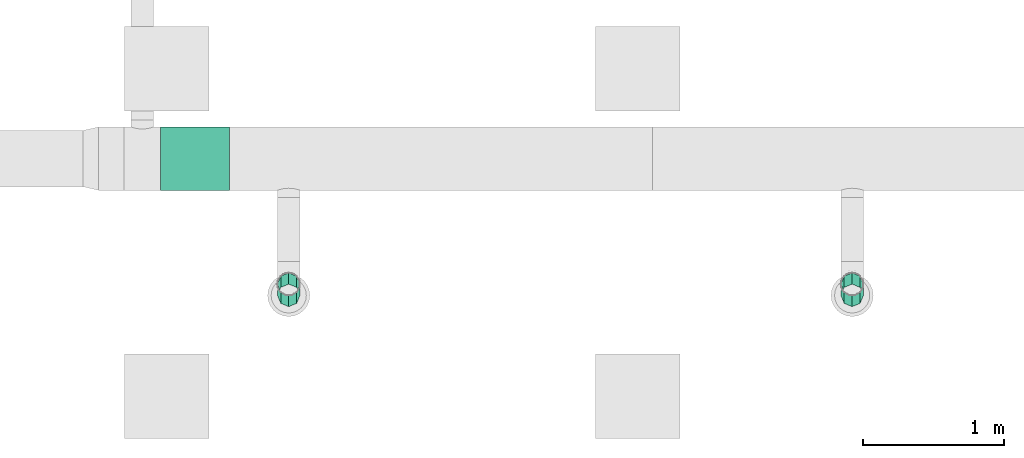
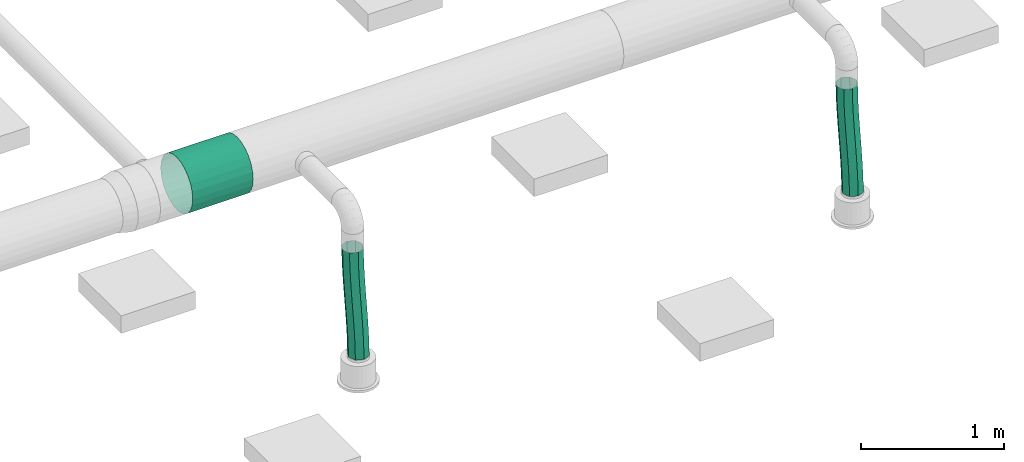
# One storey, part 247 of 374: 3 flow segments.
"""IFC2X3 building model written with IfcOpenShell, lengths in metres."""

import ifcopenshell
import ifcopenshell.guid

model = None  # the IFC model being written
_history = None  # IfcOwnerHistory: only IFC2X3 demands one
_inside = {}  # id of a spatial element -> (the spatial element, [elements in it])
_under = {}  # id of a project, library or spatial element -> (it, [spatial elements below it])
_declared = {}  # id of a project -> (the project, [libraries it declares])
_typed = {}  # id of a type object -> (the type object, [elements of that type])
_made_of = {}  # id of a material, layer set ... -> (it, [elements and type objects made of it])


def new_model(schema):
    """Start an empty IFC model of exactly this schema.

    Asked for "IFC4X3", IfcOpenShell would pick the latest addendum, in which some entities
    have other attributes; the version numbers below select the first issue.
    IFC2X3 requires an IfcOwnerHistory on every rooted entity: one is made here for all.
    """
    global model, _history
    if schema == "IFC4X3":
        model = ifcopenshell.file(schema_version=(4, 3, 0, 0))
    else:
        model = ifcopenshell.file(schema=schema)
    _inside.clear()
    _under.clear()
    _declared.clear()
    _typed.clear()
    _made_of.clear()
    _history = None
    if model.schema == "IFC2X3":
        org = make("IfcOrganization", Name="unknown")
        user = make(
            "IfcPersonAndOrganization",
            ThePerson=make("IfcPerson", FamilyName="unknown"),
            TheOrganization=org,
        )
        app = make(
            "IfcApplication",
            ApplicationDeveloper=org,
            Version="unknown",
            ApplicationFullName="unknown",
            ApplicationIdentifier="unknown",
        )
        _history = make(
            "IfcOwnerHistory",
            OwningUser=user,
            OwningApplication=app,
            ChangeAction="ADDED",
            CreationDate=0,
        )
    return model


def make(cls, **values):
    """One entity of the class cls with the attributes given. An attribute that is None is left unset."""
    return model.create_entity(
        cls, **{name: value for name, value in values.items() if value is not None}
    )


def rooted(cls, **values):
    """An entity with a GlobalId (a new one), such as an element, a storey or a relation."""
    return make(cls, GlobalId=ifcopenshell.guid.new(), OwnerHistory=_history, **values)


def si_unit(unit_type, name, prefix=None):
    """IfcSIUnit, for example si_unit("LENGTHUNIT", "METRE", prefix="MILLI")."""
    return make("IfcSIUnit", UnitType=unit_type, Prefix=prefix, Name=name)


def assignment(units):
    """IfcUnitAssignment: the units of a project."""
    return None if units is None else make("IfcUnitAssignment", Units=units)


def point(xyz):
    """IfcCartesianPoint."""
    return None if xyz is None else make("IfcCartesianPoint", Coordinates=xyz)


def direction(xyz):
    """IfcDirection."""
    return None if xyz is None else make("IfcDirection", DirectionRatios=xyz)


def frame(location, z_axis=None, x_axis=None):
    """IfcAxis2Placement3D, a coordinate frame: its origin and axes. An axis left out is left unset."""
    return make(
        "IfcAxis2Placement3D",
        Location=point(location),
        Axis=direction(z_axis),
        RefDirection=direction(x_axis),
    )


def origin():
    """The frame at (0, 0, 0) with its axes left unset."""
    return frame((0.0, 0.0, 0.0))


def place(relative_to, where):
    """IfcLocalPlacement: puts the frame where relative to a parent placement (None: the world)."""
    return make(
        "IfcLocalPlacement", PlacementRelTo=relative_to, RelativePlacement=where
    )


def context(
    kind, dimensions, precision=None, world=None, true_north=None, identifier=None
):
    """IfcGeometricRepresentationContext, for example the 3D "Model" context."""
    return make(
        "IfcGeometricRepresentationContext",
        ContextIdentifier=identifier,
        ContextType=kind,
        CoordinateSpaceDimension=dimensions,
        Precision=precision,
        WorldCoordinateSystem=world,
        TrueNorth=true_north,
    )


def subcontext(parent, identifier, kind, view, scale=None):
    """IfcGeometricRepresentationSubContext, for example "Body" below "Model"."""
    return make(
        "IfcGeometricRepresentationSubContext",
        ContextIdentifier=identifier,
        ContextType=kind,
        ParentContext=parent,
        TargetScale=scale,
        TargetView=view,
    )


def project(units=None, contexts=None):
    """IfcProject with its units and contexts."""
    return rooted(
        "IfcProject",
        Name="project",
        RepresentationContexts=contexts,
        UnitsInContext=assignment(units),
    )


def spatial(cls, under=None, at=None, **own):
    """A site, building, storey or space (cls), placed at a placement, below another one or the project."""
    s = rooted(cls, ObjectPlacement=at, **own)
    if under is not None:
        _under.setdefault(under.id(), (under, []))[1].append(s)
    return s


def faces_of(points, faces, orient=None, outer=None):
    """IfcFace entities. A face is a list of loops; a loop is a list of indices into points, from 0.

    orient and outer hold one flag for each loop. By default every Orientation is true, the
    first loop of a face is its IfcFaceOuterBound and the others are IfcFaceBound.
    """
    made = []
    for i, loops in enumerate(faces):
        bounds = []
        for j, loop in enumerate(loops):
            is_outer = j == 0 if outer is None else outer[i][j]
            bounds.append(
                make(
                    "IfcFaceOuterBound" if is_outer else "IfcFaceBound",
                    Bound=make("IfcPolyLoop", Polygon=[points[k] for k in loop]),
                    Orientation=True if orient is None else orient[i][j],
                )
            )
        made.append(make("IfcFace", Bounds=bounds))
    return made


def open_shell(faces, orient=None, outer=None):
    """The faces of one IfcOpenShell. surface_model builds it on its shared points."""
    return ("IfcOpenShell", faces, orient, outer)


def surface_model(cls, points, shells):
    """IfcFaceBasedSurfaceModel or IfcShellBasedSurfaceModel (cls): surfaces that need not close."""
    shared = [point(p) for p in points]
    made = [make(c, CfsFaces=faces_of(shared, fs, o, b)) for c, fs, o, b in shells]
    if cls == "IfcFaceBasedSurfaceModel":
        return make(cls, FbsmFaces=made)
    return make(cls, SbsmBoundary=made)


def shape(context_of_items, identifier, shape_type, items):
    """IfcShapeRepresentation: the items that make up one representation, for example the "Body"."""
    return make(
        "IfcShapeRepresentation",
        ContextOfItems=context_of_items,
        RepresentationIdentifier=identifier,
        RepresentationType=shape_type,
        Items=items,
    )


def source(mapping_origin, context_of_items, identifier, shape_type, items):
    """IfcRepresentationMap: a shape defined once, which mapped items show again and again."""
    return make(
        "IfcRepresentationMap",
        MappingOrigin=mapping_origin,
        MappedRepresentation=shape(context_of_items, identifier, shape_type, items),
    )


def transform(
    local_origin,
    x_axis=None,
    y_axis=None,
    z_axis=None,
    scale=None,
    scale2=None,
    scale3=None,
    uniform=True,
):
    """IfcCartesianTransformationOperator3D, or its non-uniform kind. x_axis, y_axis, z_axis: its Axis1, 2, 3."""
    if uniform:
        return make(
            "IfcCartesianTransformationOperator3D",
            Axis1=direction(x_axis),
            Axis2=direction(y_axis),
            LocalOrigin=point(local_origin),
            Scale=scale,
            Axis3=direction(z_axis),
        )
    return make(
        "IfcCartesianTransformationOperator3DnonUniform",
        Axis1=direction(x_axis),
        Axis2=direction(y_axis),
        LocalOrigin=point(local_origin),
        Scale=scale,
        Axis3=direction(z_axis),
        Scale2=scale2,
        Scale3=scale3,
    )


def mapped(mapping_source, mapping_target):
    """IfcMappedItem: shows the shape of a source again, moved by a transform."""
    return make(
        "IfcMappedItem", MappingSource=mapping_source, MappingTarget=mapping_target
    )


def made_of(thing, what):
    """Note that an element or type object is made of a material, layer set ...; save() writes the relation."""
    if what is not None:
        _made_of.setdefault(what.id(), (what, []))[1].append(thing)
    return thing


def element(
    cls,
    number,
    at=None,
    inside=None,
    cuts=None,
    type_object=None,
    material=None,
    context=None,
    identifier="Body",
    shape_type=None,
    held_by="IfcProductDefinitionShape",
    body=None,
    shapes=None,
    **own,
):
    """One element of the class cls, such as IfcWall. Its Tag is "e" and its number.

    at: its placement. inside: the storey or other place that contains it. cuts: it is an
    opening in that element (IfcRelVoidsElement). A single representation is given by context,
    identifier, shape_type and body (its items); several are given by shapes. held_by: the class
    of the entity that holds the representations. save() writes the other relations.
    """
    e = rooted(cls, Tag="e%d" % number, ObjectPlacement=at, **own)
    if body is not None:
        shapes = [shape(context, identifier, shape_type, body)]
    if shapes is not None:
        e.Representation = make(held_by, Representations=shapes)
    if inside is not None:
        _inside.setdefault(inside.id(), (inside, []))[1].append(e)
    if cuts is not None:
        rooted(
            "IfcRelVoidsElement", RelatingBuildingElement=cuts, RelatedOpeningElement=e
        )
    if type_object is not None:
        _typed.setdefault(type_object.id(), (type_object, []))[1].append(e)
    return made_of(e, material)


def aggregate(whole, parts):
    """IfcRelAggregates: a whole, such as a stair, and the parts it consists of."""
    return rooted("IfcRelAggregates", RelatingObject=whole, RelatedObjects=parts)


def save(model, path):
    """Write the relations noted so far, then the file.

    IfcRelAggregates (storeys below a building ...), IfcRelContainedInSpatialStructure (elements
    in a storey), IfcRelDefinesByType, IfcRelAssociatesMaterial and IfcRelDeclares: one each for
    every whole, place, type object, material and project.
    """
    for whole, parts in _under.values():
        aggregate(whole, parts)
    for where, things in _inside.values():
        rooted(
            "IfcRelContainedInSpatialStructure",
            RelatedElements=things,
            RelatingStructure=where,
        )
    for kind, things in _typed.values():
        rooted("IfcRelDefinesByType", RelatedObjects=things, RelatingType=kind)
    for what, things in _made_of.values():
        rooted("IfcRelAssociatesMaterial", RelatedObjects=things, RelatingMaterial=what)
    for by, libraries in _declared.values():
        rooted("IfcRelDeclares", RelatingContext=by, RelatedDefinitions=libraries)
    model.write(path)


model = new_model("IFC2X3")

# Units and contexts
model_context = context("Model", 3, precision=1e-05, world=origin(), true_north=direction((-0.4480736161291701, 0.8939966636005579)))
body_context = subcontext(model_context, "Body", "Model", "MODEL_VIEW")
ifc_project = project(units=[si_unit("LENGTHUNIT", "METRE"), si_unit("AREAUNIT", "SQUARE_METRE"), si_unit("VOLUMEUNIT", "CUBIC_METRE"), si_unit("PLANEANGLEUNIT", "RADIAN"), si_unit("THERMODYNAMICTEMPERATUREUNIT", "KELVIN"), si_unit("MASSUNIT", "GRAM", prefix="KILO"), si_unit("TIMEUNIT", "SECOND")], contexts=[model_context])

# Site, building, storey
site_placement = place(None, origin())
site = spatial("IfcSite", under=ifc_project, at=site_placement, Name="Site 1", CompositionType="ELEMENT")
building_placement = place(site_placement, origin())
building = spatial("IfcBuilding", under=site, at=building_placement, Name="Undefined", CompositionType="ELEMENT")
storey_placement = place(building_placement, origin())
storey = spatial("IfcBuildingStorey", under=building, at=storey_placement, Name="Rez de chauss\x8ee", CompositionType="ELEMENT", Elevation=0.0)

# Flow segments
shared_shape_1 = source(origin(), body_context, "Body", "SurfaceModel", [
    surface_model("IfcFaceBasedSurfaceModel", [(0.09591138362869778, 0.0, 0.0), (0.05777895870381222, 0.047905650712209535, 0.0), (0.0, 0.0, 0.0), (0.03990852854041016, -0.046436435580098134, -1.0802764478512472e-06), (-0.055767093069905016, -0.049661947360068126, -0.001092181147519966), (-0.014403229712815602, -0.09480686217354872, -0.0010661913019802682), (-0.10982704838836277, -0.10061373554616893, -0.0030471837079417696), (-0.06736210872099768, -0.14472448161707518, -0.00298252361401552), (-0.1625398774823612, -0.1524448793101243, -0.00563888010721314), (-0.11930632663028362, -0.19580249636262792, -0.005537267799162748), (-0.21426131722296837, -0.2047537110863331, -0.008645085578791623), (-0.17057410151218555, -0.24765410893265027, -0.008517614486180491), (-0.2653408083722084, -0.25714537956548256, -0.011847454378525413), (-0.22150365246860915, -0.2998925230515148, -0.011710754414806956), (-0.3161204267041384, -0.3092305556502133, -0.015031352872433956), (-0.2724332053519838, -0.35213094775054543, -0.014903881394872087), (-0.36693454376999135, -0.36062497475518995, -0.017985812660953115), (-0.32370098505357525, -0.4039825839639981, -0.01788419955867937), (-0.4181101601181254, -0.4109498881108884, -0.02050357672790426), (-0.37564521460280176, -0.45506062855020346, -0.020438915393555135), (-0.46996797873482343, -0.4598333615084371, -0.02238122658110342), (-0.428604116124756, -0.5049782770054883, -0.022355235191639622), (-0.5228244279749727, -0.5069122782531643, -0.02341928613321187), (-0.48291591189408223, -0.5533487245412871, -0.023420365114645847), (-0.5770512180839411, -0.551879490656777, -0.02342151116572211), (-0.538918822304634, -0.5997851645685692, -0.023421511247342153), (0.030535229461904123, 0.0815571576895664, -0.04329420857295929), (-0.027979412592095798, 0.03304294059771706, -0.0432937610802), (-0.08434932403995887, -0.017153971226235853, -0.0443971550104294), (-0.1388653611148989, -0.06853412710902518, -0.04636817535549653), (-0.19189656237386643, -0.1206772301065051, -0.048975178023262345), (-0.2438059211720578, -0.1731754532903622, -0.05199209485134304), (-0.2949475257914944, -0.22563060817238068, -0.05519828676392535), (-0.3456650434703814, -0.27765231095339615, -0.05837836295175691), (-0.39629124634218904, -0.3288573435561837, -0.061322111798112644), (-0.44714848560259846, -0.37887029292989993, -0.06382456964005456), (-0.4985502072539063, -0.4273253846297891, -0.06568620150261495), (-0.5508038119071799, -0.4738693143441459, -0.0667130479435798), (-0.6042948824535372, -0.5182279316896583, -0.06671572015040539), (0.030139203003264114, 0.08124192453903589, -0.10452146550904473), (-0.027639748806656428, 0.03333627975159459, -0.10452146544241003), (-0.08340683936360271, -0.01632566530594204, -0.10561364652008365), (-0.13746679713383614, -0.06727745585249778, -0.10756864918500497), (-0.19017963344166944, -0.11910860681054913, -0.11016034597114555), (-0.2419010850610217, -0.17141745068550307, -0.11316655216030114), (-0.29298059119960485, -0.22380913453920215, -0.11636892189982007), (-0.34376021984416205, -0.27589432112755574, -0.11955282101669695), (-0.3945743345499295, -0.3272887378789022, -0.12250728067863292), (-0.445749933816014, -0.37761363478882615, -0.12502504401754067), (-0.49760771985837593, -0.4264970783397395, -0.12690269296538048), (-0.5504641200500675, -0.4735759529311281, -0.1279407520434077), (-0.60469084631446, -0.5185431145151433, -0.12794297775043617), (0.05682286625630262, 0.04714461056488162, -0.14781567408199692), (0.0008200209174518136, 0.0007081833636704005, -0.1478167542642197), (-0.053491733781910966, -0.047662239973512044, -0.14888186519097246), (-0.10645061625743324, -0.09757986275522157, -0.1507981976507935), (-0.1583948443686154, -0.14865788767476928, -0.15335294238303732), (-0.20966263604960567, -0.20050951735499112, -0.1563332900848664), (-0.2605922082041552, -0.25274795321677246, -0.15952643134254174), (-0.31152177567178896, -0.3049863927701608, -0.1627195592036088), (-0.3627895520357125, -0.3568380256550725, -0.16569987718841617), (-0.4147337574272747, -0.40791604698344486, -0.16825459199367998), (-0.4676926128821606, -0.45783365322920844, -0.17017091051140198), (-0.5220043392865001, -0.5062040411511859, -0.1712360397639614), (-0.5780071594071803, -0.552640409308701, -0.17123718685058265), (0.09495529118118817, -0.0007610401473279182, -0.14781567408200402), (0.04072854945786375, -0.045728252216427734, -0.14781783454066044), (-0.012127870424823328, -0.09280715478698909, -0.14885587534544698), (-0.0639856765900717, -0.14169060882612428, -0.15073353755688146), (-0.11516129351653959, -0.1920155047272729, -0.15325133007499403), (-0.16597542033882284, -0.24340991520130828, -0.15620581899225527), (-0.2167550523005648, -0.2954950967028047, -0.1593897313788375), (-0.2678345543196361, -0.3478867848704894, -0.16259208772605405), (-0.3195559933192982, -0.40019563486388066, -0.16559826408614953), (-0.3722688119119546, -0.45202678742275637, -0.16818993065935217), (-0.42632875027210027, -0.5029785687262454, -0.17014491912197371), (-0.48209582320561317, -0.5526404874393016, -0.1712371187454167), (-0.5398747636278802, -0.6005460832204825, -0.17123718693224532), (0.1221990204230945, -0.034412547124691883, -0.10452146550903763), (0.06870796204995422, -0.07877119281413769, -0.10452407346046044), (0.016454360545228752, -0.1253151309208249, -0.10555090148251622), (-0.034947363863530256, -0.17377021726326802, -0.10741254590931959), (-0.08580460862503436, -0.22378315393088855, -0.10991503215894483), (-0.13643081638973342, -0.2749881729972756, -0.11285880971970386), (-0.18714833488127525, -0.3270098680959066, -0.11603889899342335), (-0.23828993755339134, -0.37946502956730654, -0.1192450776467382), (-0.2901992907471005, -0.4319632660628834, -0.12226196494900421), (-0.34323048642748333, -0.4841063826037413, -0.12486893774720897), (-0.39774652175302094, -0.5354865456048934, -0.1268399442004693), (-0.45411643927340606, -0.5856834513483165, -0.12794335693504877), (-0.5126310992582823, -0.6341976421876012, -0.12794297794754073), (0.12259504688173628, -0.034097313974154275, -0.04329420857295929), (0.0683682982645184, -0.07906453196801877, -0.04329636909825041), (0.015511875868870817, -0.12614343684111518, -0.04433440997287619), (-0.03634592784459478, -0.17502688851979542, -0.04621207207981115), (-0.08752153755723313, -0.22535177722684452, -0.048729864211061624), (-0.13833565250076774, -0.2767461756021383, -0.05168435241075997), (-0.18911526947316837, -0.328831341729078, -0.05486826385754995), (-0.24019476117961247, -0.38122301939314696, -0.058070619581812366), (-0.29191620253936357, -0.4335318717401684, -0.06107679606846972), (-0.344629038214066, -0.48536304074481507, -0.06366846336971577), (-0.39868900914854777, -0.5363148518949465, -0.06562345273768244), (-0.45445613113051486, -0.5859768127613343, -0.06671565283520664), (-0.5122351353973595, -0.6338824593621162, -0.06671572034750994)], [open_shell([[[0, 1, 2]], [[2, 3, 0]], [[3, 2, 4]], [[4, 5, 3]], [[5, 4, 6]], [[6, 7, 5]], [[7, 6, 8]], [[8, 9, 7]], [[9, 8, 10]], [[10, 11, 9]], [[11, 10, 12]], [[12, 13, 11]], [[13, 12, 14]], [[14, 15, 13]], [[15, 14, 16]], [[16, 17, 15]], [[17, 16, 18]], [[18, 19, 17]], [[19, 18, 20]], [[20, 21, 19]], [[21, 20, 22]], [[22, 23, 21]], [[23, 22, 24]], [[24, 25, 23]], [[1, 26, 27]], [[27, 2, 1]], [[2, 27, 28]], [[28, 4, 2]], [[4, 28, 29]], [[29, 6, 4]], [[6, 29, 30]], [[30, 8, 6]], [[8, 30, 31]], [[31, 10, 8]], [[10, 31, 32]], [[32, 12, 10]], [[12, 32, 33]], [[33, 14, 12]], [[14, 33, 34]], [[34, 16, 14]], [[16, 34, 35]], [[35, 18, 16]], [[18, 35, 36]], [[36, 20, 18]], [[20, 36, 37]], [[37, 22, 20]], [[22, 37, 38]], [[38, 24, 22]], [[26, 39, 40]], [[40, 27, 26]], [[27, 40, 41]], [[41, 28, 27]], [[28, 41, 42]], [[42, 29, 28]], [[29, 42, 43]], [[43, 30, 29]], [[30, 43, 44]], [[44, 31, 30]], [[31, 44, 45]], [[45, 32, 31]], [[32, 45, 46]], [[46, 33, 32]], [[33, 46, 47]], [[47, 34, 33]], [[34, 47, 48]], [[48, 35, 34]], [[35, 48, 49]], [[49, 36, 35]], [[36, 49, 50]], [[50, 37, 36]], [[37, 50, 51]], [[51, 38, 37]], [[39, 52, 53]], [[53, 40, 39]], [[40, 53, 54]], [[54, 41, 40]], [[41, 54, 55]], [[55, 42, 41]], [[42, 55, 56]], [[56, 43, 42]], [[43, 56, 57]], [[57, 44, 43]], [[44, 57, 58]], [[58, 45, 44]], [[45, 58, 59]], [[59, 46, 45]], [[46, 59, 60]], [[60, 47, 46]], [[47, 60, 61]], [[61, 48, 47]], [[48, 61, 62]], [[62, 49, 48]], [[49, 62, 63]], [[63, 50, 49]], [[50, 63, 64]], [[64, 51, 50]], [[52, 65, 66]], [[66, 53, 52]], [[53, 66, 67]], [[67, 54, 53]], [[54, 67, 68]], [[68, 55, 54]], [[55, 68, 69]], [[69, 56, 55]], [[56, 69, 70]], [[70, 57, 56]], [[57, 70, 71]], [[71, 58, 57]], [[58, 71, 72]], [[72, 59, 58]], [[59, 72, 73]], [[73, 60, 59]], [[60, 73, 74]], [[74, 61, 60]], [[61, 74, 75]], [[75, 62, 61]], [[62, 75, 76]], [[76, 63, 62]], [[63, 76, 77]], [[77, 64, 63]], [[65, 78, 79]], [[79, 66, 65]], [[66, 79, 80]], [[80, 67, 66]], [[67, 80, 81]], [[81, 68, 67]], [[68, 81, 82]], [[82, 69, 68]], [[69, 82, 83]], [[83, 70, 69]], [[70, 83, 84]], [[84, 71, 70]], [[71, 84, 85]], [[85, 72, 71]], [[72, 85, 86]], [[86, 73, 72]], [[73, 86, 87]], [[87, 74, 73]], [[74, 87, 88]], [[88, 75, 74]], [[75, 88, 89]], [[89, 76, 75]], [[76, 89, 90]], [[90, 77, 76]], [[78, 91, 92]], [[92, 79, 78]], [[79, 92, 93]], [[93, 80, 79]], [[80, 93, 94]], [[94, 81, 80]], [[81, 94, 95]], [[95, 82, 81]], [[82, 95, 96]], [[96, 83, 82]], [[83, 96, 97]], [[97, 84, 83]], [[84, 97, 98]], [[98, 85, 84]], [[85, 98, 99]], [[99, 86, 85]], [[86, 99, 100]], [[100, 87, 86]], [[87, 100, 101]], [[101, 88, 87]], [[88, 101, 102]], [[102, 89, 88]], [[89, 102, 103]], [[103, 90, 89]], [[91, 0, 3]], [[3, 92, 91]], [[92, 3, 5]], [[5, 93, 92]], [[93, 5, 7]], [[7, 94, 93]], [[94, 7, 9]], [[9, 95, 94]], [[95, 9, 11]], [[11, 96, 95]], [[96, 11, 13]], [[13, 97, 96]], [[97, 13, 15]], [[15, 98, 97]], [[98, 15, 17]], [[17, 99, 98]], [[99, 17, 19]], [[19, 100, 99]], [[100, 19, 21]], [[21, 101, 100]], [[101, 21, 23]], [[23, 102, 101]], [[102, 23, 25]], [[25, 103, 102]]])]),
])
flow_segment_1_placement = place(storey_placement, origin())
element("IfcFlowSegment", 1, at=flow_segment_1_placement, inside=storey, Name="Tube flexible", ObjectType="Tube flexible", context=body_context, shape_type="MappedRepresentation", body=[
    mapped(shared_shape_1, transform((50.233432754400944, 2.0149472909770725, 3.404961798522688), x_axis=(-0.24430323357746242, -0.5728986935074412, 0.7823701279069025), y_axis=(0.2946538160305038, 0.7248106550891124, 0.6227588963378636), z_axis=(-0.9238479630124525, 0.3826703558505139, -0.008266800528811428))),
])
shared_shape_2 = source(origin(), body_context, "Body", "SurfaceModel", [
    surface_model("IfcFaceBasedSurfaceModel", [(0.09591138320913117, 3.552713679e-15, 0.0), (0.05777895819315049, 0.04790565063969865, 0.0), (0.0, 0.0, 0.0), (0.03990852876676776, -0.046436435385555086, -1.0802650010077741e-06), (-0.055767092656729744, -0.049661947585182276, -0.0010921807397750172), (-0.014403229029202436, -0.09480686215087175, -0.001066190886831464), (-0.10982704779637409, -0.10061373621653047, -0.0030471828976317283), (-0.067362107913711, -0.14472448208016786, -0.002982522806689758), (-0.16253987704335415, -0.15244488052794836, -0.005638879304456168), (-0.11930632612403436, -0.19580249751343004, -0.0055372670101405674), (-0.21426131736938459, -0.2047537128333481, -0.008645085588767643), (-0.1705741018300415, -0.24765411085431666, -0.008517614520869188), (-0.2653408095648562, -0.2571453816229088, -0.011847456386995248), (-0.2215036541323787, -0.2998925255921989, -0.011710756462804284), (-0.31612042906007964, -0.30923055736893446, -0.015031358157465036), (-0.27243320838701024, -0.35213095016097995, -0.01490388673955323), (-0.36693454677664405, -0.3606249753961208, -0.017985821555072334), (-0.32370098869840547, -0.4039825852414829, -0.017884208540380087), (-0.41811016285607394, -0.4109498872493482, -0.020503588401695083), (-0.37564521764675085, -0.45506062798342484, -0.020438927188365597), (-0.4699679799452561, -0.45983335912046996, -0.022381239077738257), (-0.4286041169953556, -0.5049782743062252, -0.022355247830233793), (-0.5228244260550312, -0.5069122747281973, -0.023419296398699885), (-0.48291590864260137, -0.5533487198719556, -0.023420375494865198), (-0.5770512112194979, -0.5518794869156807, -0.02342151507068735), (-0.5389188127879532, -0.5997851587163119, -0.023421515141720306), (0.030535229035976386, 0.08155715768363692, -0.04329420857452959), (-0.02797941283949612, 0.03304294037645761, -0.04329376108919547), (-0.08434932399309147, -0.017153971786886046, -0.04439715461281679), (-0.13886536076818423, -0.06853412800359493, -0.04636817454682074), (-0.19189656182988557, -0.12067723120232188, -0.048975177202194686), (-0.2438059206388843, -0.17317545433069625, -0.05199209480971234), (-0.2949475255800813, -0.2256306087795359, -0.055198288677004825), (-0.34566504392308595, -0.27765231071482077, -0.0583783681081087), (-0.396291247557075, -0.32885734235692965, -0.06132212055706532), (-0.44714848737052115, -0.3788702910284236, -0.06382458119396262), (-0.4985502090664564, -0.427325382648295, -0.06568621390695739), (-0.5508038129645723, -0.47386931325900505, -0.06671305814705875), (-0.6042948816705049, -0.5182279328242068, -0.0667157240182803), (0.030139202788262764, 0.08124192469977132, -0.10452146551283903), (-0.0276397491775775, 0.033336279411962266, -0.10452146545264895), (-0.08340683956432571, -0.016325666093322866, -0.10561364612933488), (-0.13746679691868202, -0.06727745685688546, -0.1075686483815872), (-0.1901796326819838, -0.11910860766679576, -0.11016034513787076), (-0.24190108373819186, -0.1714174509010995, -0.11316655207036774), (-0.29298058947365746, -0.22380913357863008, -0.11636892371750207), (-0.3437602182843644, -0.27589431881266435, -0.11955282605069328), (-0.39457433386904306, -0.32728873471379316, -0.12250728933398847), (-0.44574993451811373, -0.3776136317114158, -0.12502505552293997), (-0.49760772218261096, -0.426497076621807, -0.12690270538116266), (-0.5504641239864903, -0.4735759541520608, -0.1279407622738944), (-0.6046908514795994, -0.5185431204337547, -0.12794298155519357), (0.05682286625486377, 0.047144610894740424, -0.14781567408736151), (0.0008200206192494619, 0.0007081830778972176, -0.1478167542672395), (-0.053491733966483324, -0.04766224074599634, -0.1488818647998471), (-0.10645061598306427, -0.09757986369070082, -0.15079819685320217), (-0.1583948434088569, -0.14865788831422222, -0.15335294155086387), (-0.20966263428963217, -0.20050951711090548, -0.15633328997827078), (-0.26059220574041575, -0.2527479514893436, -0.1595264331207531), (-0.31152177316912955, -0.30498638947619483, -0.1627195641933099), (-0.3627895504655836, -0.3568380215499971, -0.16569988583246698), (-0.4147337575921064, -0.4079160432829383, -0.16825460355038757), (-0.46769261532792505, -0.45783365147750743, -0.17017092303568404), (-0.5220043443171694, -0.5062040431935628, -0.17123605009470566), (-0.578007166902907, -0.5526404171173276, -0.17123719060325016), (0.09495529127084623, -0.0007610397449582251, -0.14781567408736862), (0.040728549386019, -0.04572825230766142, -0.1478178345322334), (-0.012127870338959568, -0.09280715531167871, -0.14885587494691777), (-0.06398567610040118, -0.1416906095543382, -0.1507335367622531), (-0.11516129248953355, -0.192015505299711, -0.15325132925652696), (-0.16597541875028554, -0.2434099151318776, -0.15620581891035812), (-0.21675505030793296, -0.29549509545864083, -0.15938973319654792), (-0.2678345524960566, -0.347886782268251, -0.16259209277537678), (-0.31955599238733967, -0.4001956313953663, -0.1655982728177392), (-0.37226881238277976, -0.452026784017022, -0.16818994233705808), (-0.42632875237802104, -0.5029785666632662, -0.17014493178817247), (-0.48209582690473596, -0.5526404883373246, -0.17123712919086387), (-0.5398747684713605, -0.6005460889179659, -0.171237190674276), (0.12219902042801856, -0.034412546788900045, -0.10452146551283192), (0.06870796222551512, -0.07877119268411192, -0.10452407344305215), (0.016454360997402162, -0.1253151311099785, -0.10555090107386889), (-0.03494736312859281, -0.17377021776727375, -0.10741254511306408), (-0.08580460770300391, -0.22378315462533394, -0.10991503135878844), (-0.13643081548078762, -0.27498817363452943, -0.11285880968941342), (-0.18714833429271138, -0.3270098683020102, -0.11603890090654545), (-0.23828993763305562, -0.37946502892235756, -0.11924508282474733), (-0.2901992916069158, -0.4319632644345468, -0.12226197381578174), (-0.3432304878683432, -0.4841063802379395, -0.12486894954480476), (-0.39774652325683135, -0.5354865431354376, -0.12683995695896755), (-0.4541164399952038, -0.5856834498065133, -0.1279433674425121), (-0.5126310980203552, -0.6341976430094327, -0.12794298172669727), (0.12259504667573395, -0.03409731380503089, -0.04329420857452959), (0.0683682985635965, -0.07906453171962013, -0.04329636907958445), (0.015511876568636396, -0.12614343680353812, -0.0443344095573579), (-0.03634592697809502, -0.17502688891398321, -0.04621207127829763), (-0.08752153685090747, -0.22535177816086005, -0.04872986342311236), (-0.13833565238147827, -0.27674617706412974, -0.05168435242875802), (-0.1891152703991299, -0.3288313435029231, -0.054868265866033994), (-0.24019476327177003, -0.3812230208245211, -0.058070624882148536), (-0.29191620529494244, -0.43353187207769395, -0.06107680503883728), (-0.34462904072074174, -0.4853630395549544, -0.06366847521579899), (-0.39868901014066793, -0.5363148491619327, -0.06562346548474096), (-0.4544561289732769, -0.5859768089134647, -0.06671566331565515), (-0.5122351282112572, -0.6338824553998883, -0.06671572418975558)], [open_shell([[[0, 1, 2]], [[2, 3, 0]], [[3, 2, 4]], [[4, 5, 3]], [[5, 4, 6]], [[6, 7, 5]], [[7, 6, 8]], [[8, 9, 7]], [[9, 8, 10]], [[10, 11, 9]], [[11, 10, 12]], [[12, 13, 11]], [[13, 12, 14]], [[14, 15, 13]], [[15, 14, 16]], [[16, 17, 15]], [[17, 16, 18]], [[18, 19, 17]], [[19, 18, 20]], [[20, 21, 19]], [[21, 20, 22]], [[22, 23, 21]], [[23, 22, 24]], [[24, 25, 23]], [[1, 26, 27]], [[27, 2, 1]], [[2, 27, 28]], [[28, 4, 2]], [[4, 28, 29]], [[29, 6, 4]], [[6, 29, 30]], [[30, 8, 6]], [[8, 30, 31]], [[31, 10, 8]], [[10, 31, 32]], [[32, 12, 10]], [[12, 32, 33]], [[33, 14, 12]], [[14, 33, 34]], [[34, 16, 14]], [[16, 34, 35]], [[35, 18, 16]], [[18, 35, 36]], [[36, 20, 18]], [[20, 36, 37]], [[37, 22, 20]], [[22, 37, 38]], [[38, 24, 22]], [[26, 39, 40]], [[40, 27, 26]], [[27, 40, 41]], [[41, 28, 27]], [[28, 41, 42]], [[42, 29, 28]], [[29, 42, 43]], [[43, 30, 29]], [[30, 43, 44]], [[44, 31, 30]], [[31, 44, 45]], [[45, 32, 31]], [[32, 45, 46]], [[46, 33, 32]], [[33, 46, 47]], [[47, 34, 33]], [[34, 47, 48]], [[48, 35, 34]], [[35, 48, 49]], [[49, 36, 35]], [[36, 49, 50]], [[50, 37, 36]], [[37, 50, 51]], [[51, 38, 37]], [[39, 52, 53]], [[53, 40, 39]], [[40, 53, 54]], [[54, 41, 40]], [[41, 54, 55]], [[55, 42, 41]], [[42, 55, 56]], [[56, 43, 42]], [[43, 56, 57]], [[57, 44, 43]], [[44, 57, 58]], [[58, 45, 44]], [[45, 58, 59]], [[59, 46, 45]], [[46, 59, 60]], [[60, 47, 46]], [[47, 60, 61]], [[61, 48, 47]], [[48, 61, 62]], [[62, 49, 48]], [[49, 62, 63]], [[63, 50, 49]], [[50, 63, 64]], [[64, 51, 50]], [[52, 65, 66]], [[66, 53, 52]], [[53, 66, 67]], [[67, 54, 53]], [[54, 67, 68]], [[68, 55, 54]], [[55, 68, 69]], [[69, 56, 55]], [[56, 69, 70]], [[70, 57, 56]], [[57, 70, 71]], [[71, 58, 57]], [[58, 71, 72]], [[72, 59, 58]], [[59, 72, 73]], [[73, 60, 59]], [[60, 73, 74]], [[74, 61, 60]], [[61, 74, 75]], [[75, 62, 61]], [[62, 75, 76]], [[76, 63, 62]], [[63, 76, 77]], [[77, 64, 63]], [[65, 78, 79]], [[79, 66, 65]], [[66, 79, 80]], [[80, 67, 66]], [[67, 80, 81]], [[81, 68, 67]], [[68, 81, 82]], [[82, 69, 68]], [[69, 82, 83]], [[83, 70, 69]], [[70, 83, 84]], [[84, 71, 70]], [[71, 84, 85]], [[85, 72, 71]], [[72, 85, 86]], [[86, 73, 72]], [[73, 86, 87]], [[87, 74, 73]], [[74, 87, 88]], [[88, 75, 74]], [[75, 88, 89]], [[89, 76, 75]], [[76, 89, 90]], [[90, 77, 76]], [[78, 91, 92]], [[92, 79, 78]], [[79, 92, 93]], [[93, 80, 79]], [[80, 93, 94]], [[94, 81, 80]], [[81, 94, 95]], [[95, 82, 81]], [[82, 95, 96]], [[96, 83, 82]], [[83, 96, 97]], [[97, 84, 83]], [[84, 97, 98]], [[98, 85, 84]], [[85, 98, 99]], [[99, 86, 85]], [[86, 99, 100]], [[100, 87, 86]], [[87, 100, 101]], [[101, 88, 87]], [[88, 101, 102]], [[102, 89, 88]], [[89, 102, 103]], [[103, 90, 89]], [[91, 0, 3]], [[3, 92, 91]], [[92, 3, 5]], [[5, 93, 92]], [[93, 5, 7]], [[7, 94, 93]], [[94, 7, 9]], [[9, 95, 94]], [[95, 9, 11]], [[11, 96, 95]], [[96, 11, 13]], [[13, 97, 96]], [[97, 13, 15]], [[15, 98, 97]], [[98, 15, 17]], [[17, 99, 98]], [[99, 17, 19]], [[19, 100, 99]], [[100, 19, 21]], [[21, 101, 100]], [[101, 21, 23]], [[23, 102, 101]], [[102, 23, 25]], [[25, 103, 102]]])]),
])
flow_segment_2_placement = place(storey_placement, origin())
element("IfcFlowSegment", 2, at=flow_segment_2_placement, inside=storey, Name="Tube flexible", ObjectType="Tube flexible", context=body_context, shape_type="MappedRepresentation", body=[
    mapped(shared_shape_2, transform((46.23343266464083, 2.014947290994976, 3.4049617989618), x_axis=(-0.2443032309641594, -0.5728986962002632, 0.7823701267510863), y_axis=(0.29465381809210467, 0.7248106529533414, 0.6227588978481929), z_axis=(-0.9238479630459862, 0.382670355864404, -0.00826679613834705))),
])
shared_shape_3 = source(origin(), body_context, "Body", "SurfaceModel", [
    surface_model("IfcFaceBasedSurfaceModel", [(0.0, 0.05873678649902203, -2.77555756e-16), (0.0, 0.0, 0.0), (0.4908013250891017, 0.0, 0.0), (0.4908013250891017, 0.05873678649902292, 0.0), (0.0, -0.05673537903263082, -0.015202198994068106), (0.4908013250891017, -0.05673537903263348, -0.015202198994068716), (0.0, -0.10760292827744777, -0.044570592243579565), (0.4908013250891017, -0.10760292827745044, -0.04457059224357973), (0.0, -0.14913610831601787, -0.08610377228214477), (0.4908013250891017, -0.1491361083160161, -0.08610377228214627), (0.0, -0.1785045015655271, -0.13697132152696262), (0.4908013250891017, -0.1785045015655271, -0.13697132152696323), (0.0, -0.19370670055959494, -0.1937067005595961), (0.4908013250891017, -0.19370670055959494, -0.1937067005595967), (0.0, -0.19370670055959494, -0.252443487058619), (0.4908013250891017, -0.1937067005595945, -0.2524434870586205), (0.0, -0.1785045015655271, -0.30917886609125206), (0.4908013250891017, -0.17850450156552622, -0.309178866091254), (0.0, -0.14913610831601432, -0.36004641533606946), (0.4908013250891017, -0.14913610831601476, -0.36004641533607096), (0.0, -0.10760292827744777, -0.40157959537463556), (0.4908013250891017, -0.10760292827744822, -0.40157959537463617), (0.0, -0.05673537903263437, -0.43094798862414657), (0.4908013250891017, -0.05673537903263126, -0.4309479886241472), (0.0, 0.0, -0.4461501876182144), (0.4908013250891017, 2.220446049e-15, -0.44615018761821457), (0.0, 0.058736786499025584, -0.4461501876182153), (0.4908013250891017, 0.05873678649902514, -0.4461501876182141), (0.0, 0.1154721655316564, -0.430947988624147), (0.4908013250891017, 0.11547216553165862, -0.4309479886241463), (0.0, 0.16633971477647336, -0.4015795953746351), (0.4908013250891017, 0.16633971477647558, -0.4015795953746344), (0.0, 0.20787289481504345, -0.3600464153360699), (0.4908013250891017, 0.2078728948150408, -0.3600464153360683), (0.0, 0.23724128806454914, -0.3091788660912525), (0.4908013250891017, 0.2372412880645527, -0.30917886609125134), (0.0, 0.25244348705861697, -0.25244348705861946), (0.4908013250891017, 0.2524434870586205, -0.25244348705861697), (0.0, 0.25244348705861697, -0.1937067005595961), (0.4908013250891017, 0.2524434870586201, -0.19370670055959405), (0.0, 0.2372412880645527, -0.13697132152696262), (0.4908013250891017, 0.23724128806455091, -0.13697132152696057), (0.0, 0.2078728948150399, -0.08610377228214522), (0.4908013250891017, 0.2078728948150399, -0.0861037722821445), (0.0, 0.16633971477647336, -0.044570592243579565), (0.4908013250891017, 0.16633971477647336, -0.044570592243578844), (0.0, 0.11547216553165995, -0.01520219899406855), (0.4908013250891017, 0.1154721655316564, -0.01520219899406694)], [open_shell([[[0, 1, 2, 3]], [[1, 4, 5, 2]], [[4, 6, 7, 5]], [[6, 8, 9, 7]], [[8, 10, 11, 9]], [[10, 12, 13, 11]], [[12, 14, 15, 13]], [[14, 16, 17, 15]], [[16, 18, 19, 17]], [[18, 20, 21, 19]], [[20, 22, 23, 21]], [[22, 24, 25, 23]], [[24, 26, 27, 25]], [[26, 28, 29, 27]], [[28, 30, 31, 29]], [[30, 32, 33, 31]], [[32, 34, 35, 33]], [[34, 36, 37, 35]], [[36, 38, 39, 37]], [[38, 40, 41, 39]], [[40, 42, 43, 41]], [[42, 44, 45, 43]], [[44, 46, 47, 45]], [[46, 0, 3, 47]]])]),
])
flow_segment_3_placement = place(storey_placement, origin())
element("IfcFlowSegment", 3, at=flow_segment_3_placement, inside=storey, Name="Tube", ObjectType="Tube", context=body_context, shape_type="MappedRepresentation", body=[
    mapped(shared_shape_3, transform((45.8710014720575, 2.909532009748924, 4.017333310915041), x_axis=(-1.0, 0.0, 0.0), y_axis=(7.266545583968e-12, -0.9914448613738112, 0.13052619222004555), z_axis=(0.0, 0.13052619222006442, 0.9914448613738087))),
])

save(model, "model.ifc")
